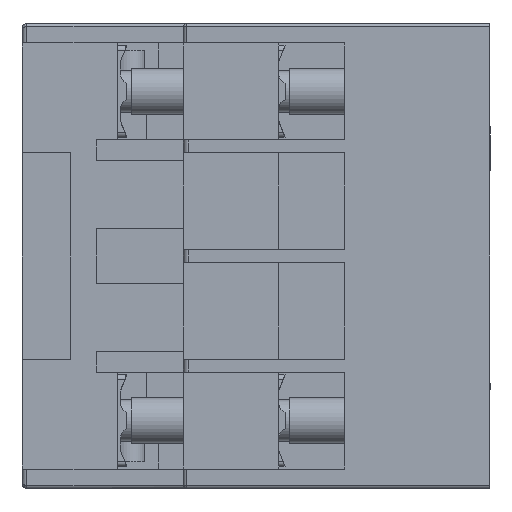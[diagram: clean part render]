
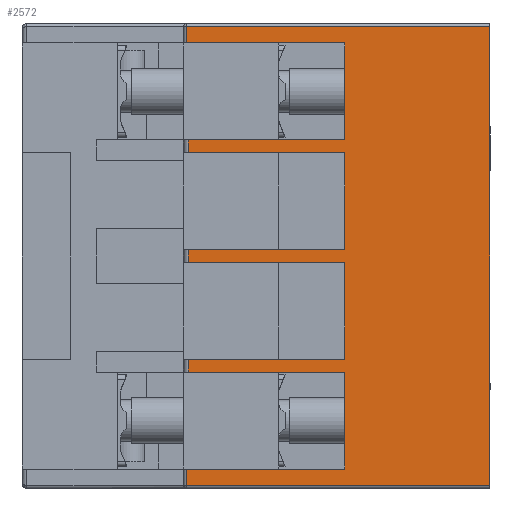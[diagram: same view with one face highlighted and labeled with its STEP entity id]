
A CAD part, left-side view. The second image highlights one B-rep face of the part: STEP entity #2572.
In plain terms, the highlighted planar face has unit normal (-1, 0, 0).
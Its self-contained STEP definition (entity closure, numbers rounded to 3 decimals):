
#2572=ADVANCED_FACE('',(#4947),#3947,.T.);
#3947=PLANE('',#28476);
#4947=FACE_OUTER_BOUND('',#6315,.T.);
#6315=EDGE_LOOP('',(#9536,#9537,#9538,#9539,#9540,#9541,#9542,#9543,#9544,
#9545,#9546,#9547,#9548,#9549,#9550,#9551,#9552,#9553,#9554,#9555));
#9536=ORIENTED_EDGE('',*,*,#19110,.T.);
#9537=ORIENTED_EDGE('',*,*,#19544,.T.);
#9538=ORIENTED_EDGE('',*,*,#19084,.T.);
#9539=ORIENTED_EDGE('',*,*,#19545,.F.);
#9540=ORIENTED_EDGE('',*,*,#19353,.T.);
#9541=ORIENTED_EDGE('',*,*,#19546,.T.);
#9542=ORIENTED_EDGE('',*,*,#18438,.T.);
#9543=ORIENTED_EDGE('',*,*,#19520,.F.);
#9544=ORIENTED_EDGE('',*,*,#19215,.T.);
#9545=ORIENTED_EDGE('',*,*,#19547,.T.);
#9546=ORIENTED_EDGE('',*,*,#19168,.T.);
#9547=ORIENTED_EDGE('',*,*,#18810,.F.);
#9548=ORIENTED_EDGE('',*,*,#18961,.F.);
#9549=ORIENTED_EDGE('',*,*,#19548,.T.);
#9550=ORIENTED_EDGE('',*,*,#19549,.T.);
#9551=ORIENTED_EDGE('',*,*,#18774,.F.);
#9552=ORIENTED_EDGE('',*,*,#19550,.T.);
#9553=ORIENTED_EDGE('',*,*,#19551,.T.);
#9554=ORIENTED_EDGE('',*,*,#18909,.F.);
#9555=ORIENTED_EDGE('',*,*,#18806,.F.);
#15840=VERTEX_POINT('',#38454);
#15841=VERTEX_POINT('',#38455);
#16146=VERTEX_POINT('',#39388);
#16147=VERTEX_POINT('',#39390);
#16170=VERTEX_POINT('',#39446);
#16171=VERTEX_POINT('',#39448);
#16173=VERTEX_POINT('',#39454);
#16174=VERTEX_POINT('',#39456);
#16255=VERTEX_POINT('',#39645);
#16300=VERTEX_POINT('',#39742);
#16400=VERTEX_POINT('',#39980);
#16401=VERTEX_POINT('',#39981);
#16420=VERTEX_POINT('',#40027);
#16467=VERTEX_POINT('',#40137);
#16503=VERTEX_POINT('',#40222);
#16504=VERTEX_POINT('',#40224);
#16603=VERTEX_POINT('',#40470);
#16604=VERTEX_POINT('',#40472);
#16722=VERTEX_POINT('',#40818);
#16723=VERTEX_POINT('',#40821);
#18438=EDGE_CURVE('',#15840,#15841,#22210,.T.);
#18774=EDGE_CURVE('',#16146,#16147,#22491,.T.);
#18806=EDGE_CURVE('',#16170,#16171,#22520,.T.);
#18810=EDGE_CURVE('',#16173,#16174,#22524,.T.);
#18909=EDGE_CURVE('',#16171,#16255,#22615,.T.);
#18961=EDGE_CURVE('',#16300,#16173,#22663,.T.);
#19084=EDGE_CURVE('',#16400,#16401,#22777,.T.);
#19110=EDGE_CURVE('',#16170,#16420,#22801,.T.);
#19168=EDGE_CURVE('',#16467,#16174,#22848,.T.);
#19215=EDGE_CURVE('',#16504,#16503,#22893,.T.);
#19353=EDGE_CURVE('',#16604,#16603,#23024,.T.);
#19520=EDGE_CURVE('',#16504,#15841,#23171,.T.);
#19544=EDGE_CURVE('',#16420,#16400,#23195,.T.);
#19545=EDGE_CURVE('',#16604,#16401,#23196,.T.);
#19546=EDGE_CURVE('',#16603,#15840,#23197,.T.);
#19547=EDGE_CURVE('',#16503,#16467,#23198,.T.);
#19548=EDGE_CURVE('',#16300,#16722,#23199,.T.);
#19549=EDGE_CURVE('',#16722,#16147,#23200,.T.);
#19550=EDGE_CURVE('',#16146,#16723,#23201,.T.);
#19551=EDGE_CURVE('',#16723,#16255,#23202,.T.);
#22210=LINE('',#38453,#25353);
#22491=LINE('',#39389,#25634);
#22520=LINE('',#39447,#25663);
#22524=LINE('',#39455,#25667);
#22615=LINE('',#39644,#25758);
#22663=LINE('',#39743,#25806);
#22777=LINE('',#39979,#25920);
#22801=LINE('',#40028,#25944);
#22848=LINE('',#40136,#25991);
#22893=LINE('',#40223,#26036);
#23024=LINE('',#40471,#26167);
#23171=LINE('',#40767,#26314);
#23195=LINE('',#40813,#26338);
#23196=LINE('',#40814,#26339);
#23197=LINE('',#40815,#26340);
#23198=LINE('',#40816,#26341);
#23199=LINE('',#40817,#26342);
#23200=LINE('',#40819,#26343);
#23201=LINE('',#40820,#26344);
#23202=LINE('',#40822,#26345);
#25353=VECTOR('',#30890,1.);
#25634=VECTOR('',#31319,1.);
#25663=VECTOR('',#31358,1.);
#25667=VECTOR('',#31364,1.);
#25758=VECTOR('',#31489,1.);
#25806=VECTOR('',#31547,1.);
#25920=VECTOR('',#31707,1.);
#25944=VECTOR('',#31739,1.);
#25991=VECTOR('',#31816,1.);
#26036=VECTOR('',#31871,1.);
#26167=VECTOR('',#32036,1.);
#26314=VECTOR('',#32273,1.);
#26338=VECTOR('',#32313,1.);
#26339=VECTOR('',#32314,1.);
#26340=VECTOR('',#32315,1.);
#26341=VECTOR('',#32316,1.);
#26342=VECTOR('',#32317,1.);
#26343=VECTOR('',#32318,1.);
#26344=VECTOR('',#32319,1.);
#26345=VECTOR('',#32320,1.);
#28476=AXIS2_PLACEMENT_3D('',#40823,#32321,#32322);
#30890=DIRECTION('',(0.,-1.,0.));
#31319=DIRECTION('',(0.,0.,-1.));
#31358=DIRECTION('',(0.,0.,1.));
#31364=DIRECTION('',(0.,0.,1.));
#31489=DIRECTION('',(0.,1.,0.));
#31547=DIRECTION('',(0.,-1.,0.));
#31707=DIRECTION('',(0.,-1.,0.));
#31739=DIRECTION('',(0.,1.,0.));
#31816=DIRECTION('',(0.,-1.,0.));
#31871=DIRECTION('',(0.,1.,0.));
#32036=DIRECTION('',(0.,1.,0.));
#32273=DIRECTION('',(0.,0.,1.));
#32313=DIRECTION('',(0.,0.,-1.));
#32314=DIRECTION('',(0.,0.,1.));
#32315=DIRECTION('',(0.,0.,-1.));
#32316=DIRECTION('',(0.,0.,-1.));
#32317=DIRECTION('',(0.,0.,-1.));
#32318=DIRECTION('',(0.,-1.,0.));
#32319=DIRECTION('',(0.,1.,0.));
#32320=DIRECTION('',(0.,0.,-1.));
#32321=DIRECTION('',(-1.,0.,0.));
#32322=DIRECTION('',(0.,-1.,0.));
#38453=CARTESIAN_POINT('',(-29.,7.,-0.4));
#38454=CARTESIAN_POINT('',(-29.,25.7,-0.4));
#38455=CARTESIAN_POINT('',(-29.,16.,-0.4));
#39388=CARTESIAN_POINT('',(-29.,7.,14.2));
#39389=CARTESIAN_POINT('',(-29.,7.,14.75));
#39390=CARTESIAN_POINT('',(-29.,7.,-14.2));
#39446=CARTESIAN_POINT('',(-29.,16.,7.2));
#39447=CARTESIAN_POINT('',(-29.,16.,14.75));
#39448=CARTESIAN_POINT('',(-29.,16.,13.2));
#39454=CARTESIAN_POINT('',(-29.,16.,-13.2));
#39455=CARTESIAN_POINT('',(-29.,16.,14.75));
#39456=CARTESIAN_POINT('',(-29.,16.,-7.2));
#39644=CARTESIAN_POINT('',(-29.,7.,13.2));
#39645=CARTESIAN_POINT('',(-29.,25.8,13.2));
#39742=CARTESIAN_POINT('',(-29.,25.8,-13.2));
#39743=CARTESIAN_POINT('',(-29.,7.,-13.2));
#39979=CARTESIAN_POINT('',(-29.,7.,6.4));
#39980=CARTESIAN_POINT('',(-29.,25.7,6.4));
#39981=CARTESIAN_POINT('',(-29.,16.,6.4));
#40027=CARTESIAN_POINT('',(-29.,25.7,7.2));
#40028=CARTESIAN_POINT('',(-29.,7.,7.2));
#40136=CARTESIAN_POINT('',(-29.,7.,-7.2));
#40137=CARTESIAN_POINT('',(-29.,25.7,-7.2));
#40222=CARTESIAN_POINT('',(-29.,25.7,-6.4));
#40223=CARTESIAN_POINT('',(-29.,7.,-6.4));
#40224=CARTESIAN_POINT('',(-29.,16.,-6.4));
#40470=CARTESIAN_POINT('',(-29.,25.7,0.4));
#40471=CARTESIAN_POINT('',(-29.,7.,0.4));
#40472=CARTESIAN_POINT('',(-29.,16.,0.4));
#40767=CARTESIAN_POINT('',(-29.,16.,14.75));
#40813=CARTESIAN_POINT('',(-29.,25.7,14.75));
#40814=CARTESIAN_POINT('',(-29.,16.,14.75));
#40815=CARTESIAN_POINT('',(-29.,25.7,14.75));
#40816=CARTESIAN_POINT('',(-29.,25.7,14.75));
#40817=CARTESIAN_POINT('',(-29.,25.8,14.75));
#40818=CARTESIAN_POINT('',(-29.,25.8,-14.2));
#40819=CARTESIAN_POINT('',(-29.,7.,-14.2));
#40820=CARTESIAN_POINT('',(-29.,7.,14.2));
#40821=CARTESIAN_POINT('',(-29.,25.8,14.2));
#40822=CARTESIAN_POINT('',(-29.,25.8,14.75));
#40823=CARTESIAN_POINT('',(-29.,7.,14.75));
